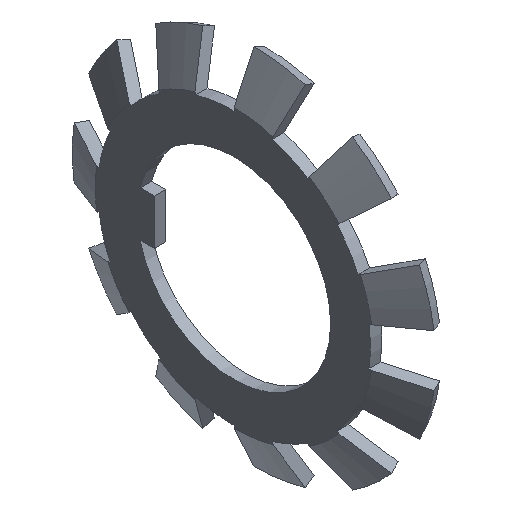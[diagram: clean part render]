
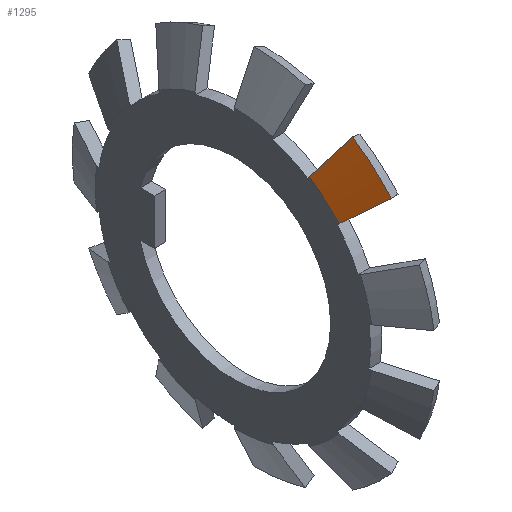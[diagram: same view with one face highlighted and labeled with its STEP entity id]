
A CAD part, isometric view. The second image highlights one B-rep face of the part: STEP entity #1295.
In plain terms, the highlighted conical face has half-angle 65 degrees and reference radius 14.111 mm.
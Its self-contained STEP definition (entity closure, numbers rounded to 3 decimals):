
#49=CONICAL_SURFACE('',#1458,14.111,1.134);
#147=FACE_OUTER_BOUND('',#220,.T.);
#220=EDGE_LOOP('',(#1183,#1184,#1185,#1186));
#227=LINE('',#1878,#347);
#321=LINE('',#2111,#441);
#347=VECTOR('',#1474,10.);
#441=VECTOR('',#1660,10.);
#516=CIRCLE('',#1415,12.222);
#528=CIRCLE('',#1438,16.);
#536=VERTEX_POINT('',#1875);
#537=VERTEX_POINT('',#1877);
#629=VERTEX_POINT('',#2108);
#630=VERTEX_POINT('',#2110);
#655=EDGE_CURVE('',#537,#536,#227,.T.);
#767=EDGE_CURVE('',#630,#629,#321,.T.);
#806=EDGE_CURVE('',#536,#630,#516,.T.);
#823=EDGE_CURVE('',#537,#629,#528,.T.);
#1183=ORIENTED_EDGE('',*,*,#655,.T.);
#1184=ORIENTED_EDGE('',*,*,#806,.T.);
#1185=ORIENTED_EDGE('',*,*,#767,.T.);
#1186=ORIENTED_EDGE('',*,*,#823,.F.);
#1295=ADVANCED_FACE('',(#147),#49,.T.);
#1415=AXIS2_PLACEMENT_3D('',#2170,#1756,#1757);
#1438=AXIS2_PLACEMENT_3D('',#2204,#1807,#1808);
#1458=AXIS2_PLACEMENT_3D('',#2239,#1858,#1859);
#1474=DIRECTION('',(-0.423,0.49,-0.762));
#1660=DIRECTION('',(0.423,-0.685,0.594));
#1756=DIRECTION('center_axis',(1.,0.,0.));
#1757=DIRECTION('ref_axis',(0.,1.,0.));
#1807=DIRECTION('center_axis',(1.,0.,0.));
#1808=DIRECTION('ref_axis',(0.,1.,0.));
#1858=DIRECTION('center_axis',(1.,0.,0.));
#1859=DIRECTION('ref_axis',(0.,1.,0.));
#1875=CARTESIAN_POINT('',(0.,-6.608,10.282));
#1877=CARTESIAN_POINT('',(1.762,-8.65,13.46));
#1878=CARTESIAN_POINT('',(0.881,-7.629,11.871));
#2108=CARTESIAN_POINT('',(1.762,-12.092,10.478));
#2110=CARTESIAN_POINT('',(0.,-9.237,8.004));
#2111=CARTESIAN_POINT('',(0.881,-10.664,9.241));
#2170=CARTESIAN_POINT('Origin',(0.,0.,0.));
#2204=CARTESIAN_POINT('Origin',(1.762,0.,0.));
#2239=CARTESIAN_POINT('Origin',(0.881,0.,0.));
